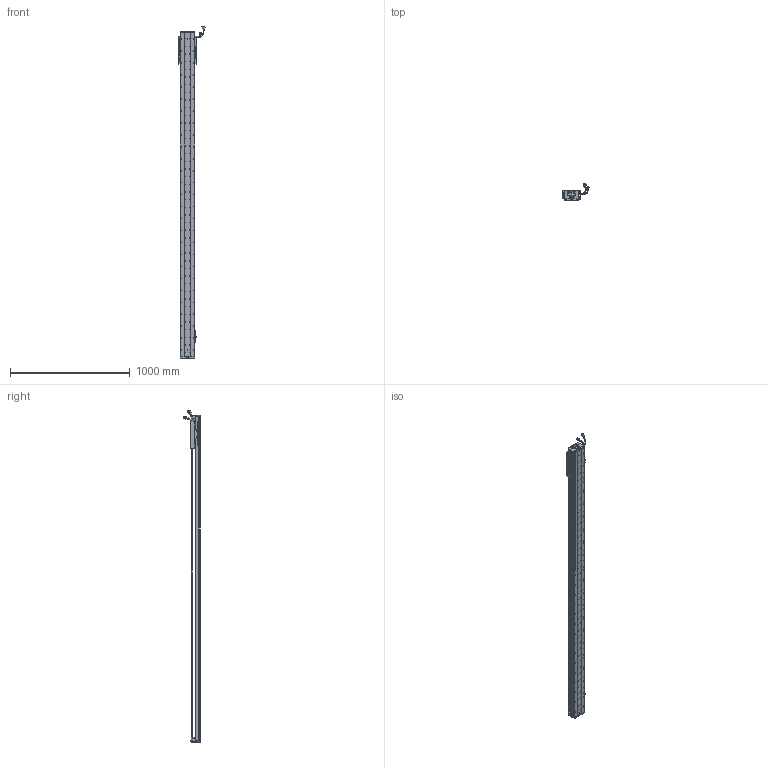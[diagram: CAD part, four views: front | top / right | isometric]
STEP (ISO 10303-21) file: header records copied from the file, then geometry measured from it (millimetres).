
FILE_DESCRIPTION (( 'STEP AP203' ), '1' );
FILE_NAME ('Z3-RY120D-1-L500-B-K.SLDASM_2400.step', '2021-05-17T05:50:08', ( '盈信电脑' ), ( '东莞市道滘镇水果街19号' ), 'SwSTEP 2.0', 'SolidWorks 2016', '' );
FILE_SCHEMA (( 'CONFIG_CONTROL_DESIGN' ));
Length unit declared in the file: millimetre
Products named in the file (37): 榋妏寠巭燃_暯_M2_2; COVER; 672嫖萇羲壽假蚾釱; SEAL-Part-1; SCALE-Part-2; HARNESS-Part-2; PSLH080_PSLF2; 080黍杅芛假蚾釱21遴; SCREW-M1.6-2; COVER-Part-1; LABEL-Part-1; RY100FB-遵嫖萇覜茼え; SCREW-M1.6-3; 覜茼ん672; Z-RY120D詩湍狟揤裔; Z3-RY120-L500詩湍100mm遵_2400; SHIELDPLATE; SCREW-M1.7-1; HARNESS-Part-1; Z-RY120D詩湍奻揤裔; 140蚥薯蝶輸; SCREW-M1.6; PBU_SHEET; Z-120詩湍傷裔啣; SCALE; LABEL; SEAL; HARNESS; SCREW-M1.7; SCREW-M1.6-1; 140雄赽晤鎢ん堤盄; HOLDER0; Z3-RY120铝滑块（21款）; Z3-RY120D-1-L500-B-K.SLDASM_2400; SCALE-Part-1; 120-Z-臏賑輸盄裔(21遴); Z3-RY120-500-倰第菁釱_2400
Assembly tree (43 placements, depth 4):
  Z3-RY120D-1-L500-B-K.SLDASM_2400
    Z3-RY120-500-倰第菁釱_2400
    覜茼ん672  x3
    672嫖萇羲壽假蚾釱  x2
    Z3-RY120铝滑块（21款）
    PSLH080_PSLF2
      SCALE
        SCALE-Part-1
        SCALE-Part-2
      HARNESS
        HARNESS-Part-1
        HARNESS-Part-2
      LABEL
        LABEL-Part-1
      COVER
        COVER-Part-1
      SEAL
        SEAL-Part-1
      榋妏寠巭燃_暯_M2_2
      SHIELDPLATE
      SCREW-M1.7
      SCREW-M1.7-1
      PBU_SHEET
      SCREW-M1.6
      SCREW-M1.6-1
      SCREW-M1.6-2
      SCREW-M1.6-3
      HOLDER0
    080黍杅芛假蚾釱21遴
    120-Z-臏賑輸盄裔(21遴)
    140雄赽晤鎢ん堤盄
    140蚥薯蝶輸  x2
    RY100FB-遵嫖萇覜茼え
    Z-120詩湍傷裔啣  x2
    Z-RY120D詩湍奻揤裔  x2
    Z-RY120D詩湍狟揤裔  x2
    Z3-RY120-L500詩湍100mm遵_2400
Bounding box: 222.83 x 140.94 x 2773.99 mm (x, y, z)
Volume: 6486929.2 mm3; surface area: 2268531.5 mm2
Topology: 38 solids, 38 shells, 3745 faces, 10687 edges, 6742 vertices
Faces by surface type: cylinder 1977, plane 1256, cone 390, torus 69, bspline 53
Entity records: 126234 total; most frequent: CARTESIAN_POINT 38819, ORIENTED_EDGE 18118, DIRECTION 16571, EDGE_CURVE 9059, AXIS2_PLACEMENT_3D 6132, VERTEX_POINT 5862, VECTOR 4307, LINE 4307
